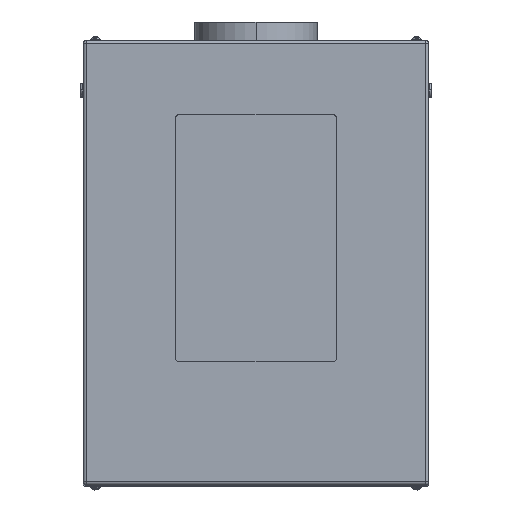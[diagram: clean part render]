
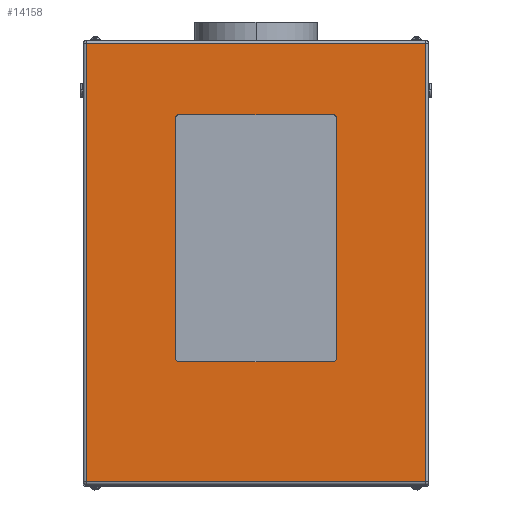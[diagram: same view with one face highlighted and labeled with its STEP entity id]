
A CAD part, top view. The second image highlights one B-rep face of the part: STEP entity #14158.
In plain terms, the highlighted planar face has unit normal (0, 0, 1).
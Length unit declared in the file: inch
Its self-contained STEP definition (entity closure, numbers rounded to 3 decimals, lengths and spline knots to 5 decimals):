
#108 = VECTOR ( 'NONE', #13946, 39.37008 ) ;
#219 = VERTEX_POINT ( 'NONE', #15628 ) ;
#271 = VERTEX_POINT ( 'NONE', #9561 ) ;
#298 = LINE ( 'NONE', #14311, #15946 ) ;
#1075 = DIRECTION ( 'NONE',  ( -1., 0., 0. ) ) ;
#1257 = CIRCLE ( 'NONE', #13175, 0.25 ) ;
#1373 = VERTEX_POINT ( 'NONE', #4318 ) ;
#1426 = DIRECTION ( 'NONE',  ( -1., 0., 0. ) ) ;
#1673 = AXIS2_PLACEMENT_3D ( 'NONE', #10473, #14091, #10551 ) ;
#1763 = VECTOR ( 'NONE', #1845, 39.37008 ) ;
#1845 = DIRECTION ( 'NONE',  ( -1., 0., 0. ) ) ;
#1903 = CARTESIAN_POINT ( 'NONE',  ( 6.25, 12., 32. ) ) ;
#1982 = DIRECTION ( 'NONE',  ( 0., 1., 0. ) ) ;
#2071 = LINE ( 'NONE', #3585, #14145 ) ;
#2083 = DIRECTION ( 'NONE',  ( 0., 0., 1. ) ) ;
#2148 = CARTESIAN_POINT ( 'NONE',  ( -6.25, -8., 32. ) ) ;
#2177 = ORIENTED_EDGE ( 'NONE', *, *, #14026, .F. ) ;
#2679 = VERTEX_POINT ( 'NONE', #2692 ) ;
#2692 = CARTESIAN_POINT ( 'NONE',  ( -13.734, 17.734, 32. ) ) ;
#2750 = CARTESIAN_POINT ( 'NONE',  ( 14., 18., 32. ) ) ;
#2940 = EDGE_CURVE ( 'NONE', #13060, #2679, #13227, .T. ) ;
#3044 = CARTESIAN_POINT ( 'NONE',  ( -6.5, 11.75, 32. ) ) ;
#3544 = ORIENTED_EDGE ( 'NONE', *, *, #5155, .F. ) ;
#3585 = CARTESIAN_POINT ( 'NONE',  ( -13.734, 18., 32. ) ) ;
#3795 = ORIENTED_EDGE ( 'NONE', *, *, #6543, .F. ) ;
#3836 = CARTESIAN_POINT ( 'NONE',  ( 13.734, -17.734, 32. ) ) ;
#3898 = VECTOR ( 'NONE', #15481, 39.37008 ) ;
#4034 = VERTEX_POINT ( 'NONE', #1903 ) ;
#4318 = CARTESIAN_POINT ( 'NONE',  ( -6.25, 12., 32. ) ) ;
#4421 = VECTOR ( 'NONE', #1982, 39.37008 ) ;
#4424 = EDGE_CURVE ( 'NONE', #8488, #13552, #8070, .T. ) ;
#4649 = AXIS2_PLACEMENT_3D ( 'NONE', #7013, #2083, #4681 ) ;
#4681 = DIRECTION ( 'NONE',  ( 1., 0., 0. ) ) ;
#4871 = DIRECTION ( 'NONE',  ( 1., 0., 0. ) ) ;
#5155 = EDGE_CURVE ( 'NONE', #219, #4034, #12778, .T. ) ;
#5460 = CIRCLE ( 'NONE', #4649, 0.25 ) ;
#5477 = LINE ( 'NONE', #3044, #7582 ) ;
#6018 = DIRECTION ( 'NONE',  ( 0., -1., 0. ) ) ;
#6059 = ORIENTED_EDGE ( 'NONE', *, *, #11439, .T. ) ;
#6394 = EDGE_CURVE ( 'NONE', #7710, #13060, #14755, .T. ) ;
#6543 = EDGE_CURVE ( 'NONE', #4034, #1373, #10458, .T. ) ;
#6585 = CARTESIAN_POINT ( 'NONE',  ( -6.5, -7.75, 32. ) ) ;
#6674 = EDGE_CURVE ( 'NONE', #1373, #271, #1257, .T. ) ;
#6780 = EDGE_LOOP ( 'NONE', ( #13686, #2177, #10032, #15178, #3795, #3544, #11266, #13548 ) ) ;
#7013 = CARTESIAN_POINT ( 'NONE',  ( -6.25, -7.75, 32. ) ) ;
#7582 = VECTOR ( 'NONE', #11672, 39.37008 ) ;
#7710 = VERTEX_POINT ( 'NONE', #15137 ) ;
#8070 = LINE ( 'NONE', #11848, #9577 ) ;
#8488 = VERTEX_POINT ( 'NONE', #2148 ) ;
#8514 = DIRECTION ( 'NONE',  ( 0., 0., 1. ) ) ;
#9468 = CARTESIAN_POINT ( 'NONE',  ( -13.734, -17.734, 32. ) ) ;
#9561 = CARTESIAN_POINT ( 'NONE',  ( -6.5, 11.75, 32. ) ) ;
#9577 = VECTOR ( 'NONE', #14255, 39.37008 ) ;
#9894 = CARTESIAN_POINT ( 'NONE',  ( 6.25, 11.75, 32. ) ) ;
#10028 = ORIENTED_EDGE ( 'NONE', *, *, #2940, .T. ) ;
#10032 = ORIENTED_EDGE ( 'NONE', *, *, #14627, .F. ) ;
#10243 = CARTESIAN_POINT ( 'NONE',  ( 6.5, -7.75, 32. ) ) ;
#10458 = LINE ( 'NONE', #10541, #3898 ) ;
#10473 = CARTESIAN_POINT ( 'NONE',  ( 6.25, -7.75, 32. ) ) ;
#10488 = FACE_BOUND ( 'NONE', #6780, .T. ) ;
#10541 = CARTESIAN_POINT ( 'NONE',  ( -6.25, 12., 32. ) ) ;
#10551 = DIRECTION ( 'NONE',  ( 1., 0., 0. ) ) ;
#10577 = CARTESIAN_POINT ( 'NONE',  ( 14., 17.734, 32. ) ) ;
#10653 = EDGE_CURVE ( 'NONE', #12480, #219, #298, .T. ) ;
#10923 = AXIS2_PLACEMENT_3D ( 'NONE', #9894, #14935, #1075 ) ;
#11198 = ORIENTED_EDGE ( 'NONE', *, *, #6394, .T. ) ;
#11266 = ORIENTED_EDGE ( 'NONE', *, *, #10653, .F. ) ;
#11336 = EDGE_CURVE ( 'NONE', #2679, #11507, #2071, .T. ) ;
#11387 = LINE ( 'NONE', #3836, #108 ) ;
#11439 = EDGE_CURVE ( 'NONE', #11507, #7710, #11387, .T. ) ;
#11507 = VERTEX_POINT ( 'NONE', #9468 ) ;
#11559 = FACE_OUTER_BOUND ( 'NONE', #14261, .T. ) ;
#11672 = DIRECTION ( 'NONE',  ( 0., -1., 0. ) ) ;
#11689 = CARTESIAN_POINT ( 'NONE',  ( 6.25, -8., 32. ) ) ;
#11848 = CARTESIAN_POINT ( 'NONE',  ( -6.25, -8., 32. ) ) ;
#12045 = ORIENTED_EDGE ( 'NONE', *, *, #11336, .T. ) ;
#12238 = CARTESIAN_POINT ( 'NONE',  ( -6.25, 11.75, 32. ) ) ;
#12293 = AXIS2_PLACEMENT_3D ( 'NONE', #2750, #14272, #1426 ) ;
#12480 = VERTEX_POINT ( 'NONE', #10243 ) ;
#12778 = CIRCLE ( 'NONE', #10923, 0.25 ) ;
#13060 = VERTEX_POINT ( 'NONE', #15440 ) ;
#13094 = DIRECTION ( 'NONE',  ( 0., 1., 0. ) ) ;
#13175 = AXIS2_PLACEMENT_3D ( 'NONE', #12238, #8514, #4871 ) ;
#13227 = LINE ( 'NONE', #10577, #1763 ) ;
#13502 = VERTEX_POINT ( 'NONE', #6585 ) ;
#13548 = ORIENTED_EDGE ( 'NONE', *, *, #16389, .F. ) ;
#13552 = VERTEX_POINT ( 'NONE', #11689 ) ;
#13592 = CIRCLE ( 'NONE', #1673, 0.25 ) ;
#13686 = ORIENTED_EDGE ( 'NONE', *, *, #4424, .F. ) ;
#13946 = DIRECTION ( 'NONE',  ( 1., 0., 0. ) ) ;
#14026 = EDGE_CURVE ( 'NONE', #13502, #8488, #5460, .T. ) ;
#14091 = DIRECTION ( 'NONE',  ( 0., 0., 1. ) ) ;
#14145 = VECTOR ( 'NONE', #6018, 39.37008 ) ;
#14158 = ADVANCED_FACE ( 'NONE', ( #10488, #11559 ), #14197, .F. ) ;
#14197 = PLANE ( 'NONE',  #12293 ) ;
#14255 = DIRECTION ( 'NONE',  ( 1., 0., 0. ) ) ;
#14261 = EDGE_LOOP ( 'NONE', ( #12045, #6059, #11198, #10028 ) ) ;
#14272 = DIRECTION ( 'NONE',  ( 0., 0., -1. ) ) ;
#14311 = CARTESIAN_POINT ( 'NONE',  ( 6.5, 11.75, 32. ) ) ;
#14421 = CARTESIAN_POINT ( 'NONE',  ( 13.734, 18., 32. ) ) ;
#14627 = EDGE_CURVE ( 'NONE', #271, #13502, #5477, .T. ) ;
#14755 = LINE ( 'NONE', #14421, #4421 ) ;
#14935 = DIRECTION ( 'NONE',  ( 0., 0., 1. ) ) ;
#15137 = CARTESIAN_POINT ( 'NONE',  ( 13.734, -17.734, 32. ) ) ;
#15178 = ORIENTED_EDGE ( 'NONE', *, *, #6674, .F. ) ;
#15440 = CARTESIAN_POINT ( 'NONE',  ( 13.734, 17.734, 32. ) ) ;
#15481 = DIRECTION ( 'NONE',  ( -1., 0., 0. ) ) ;
#15628 = CARTESIAN_POINT ( 'NONE',  ( 6.5, 11.75, 32. ) ) ;
#15946 = VECTOR ( 'NONE', #13094, 39.37008 ) ;
#16389 = EDGE_CURVE ( 'NONE', #13552, #12480, #13592, .T. ) ;
